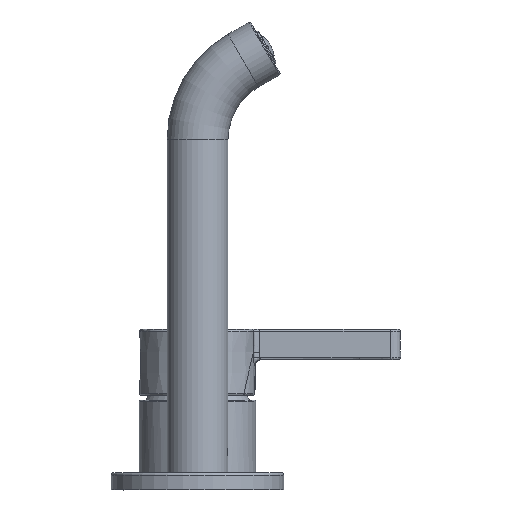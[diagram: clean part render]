
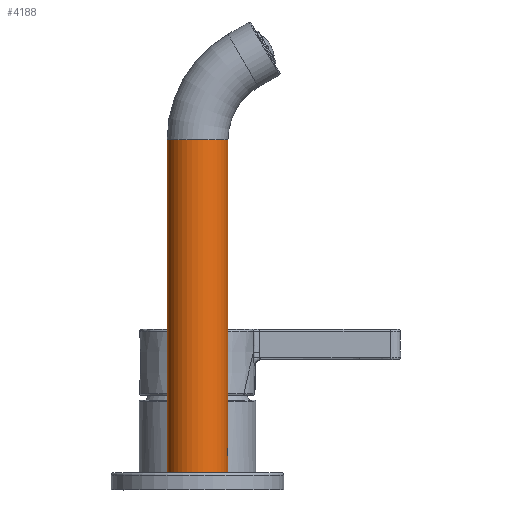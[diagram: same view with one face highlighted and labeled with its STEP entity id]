
A CAD part, left-side view. The second image highlights one B-rep face of the part: STEP entity #4188.
In plain terms, the highlighted cylindrical face has radius 12 mm (diameter 24 mm), a partial arc.
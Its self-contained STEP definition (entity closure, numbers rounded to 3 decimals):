
#97=DIRECTION('',(0.,0.,1.));
#98=VECTOR('',#97,6.1);
#99=CARTESIAN_POINT('',(0.,-12.,3.5));
#100=LINE('',#99,#98);
#124=CARTESIAN_POINT('',(0.,-12.,9.6));
#151=DIRECTION('',(0.,0.,1.));
#152=VECTOR('',#151,121.023);
#153=CARTESIAN_POINT('',(0.,-12.,13.8));
#154=LINE('',#153,#152);
#170=CARTESIAN_POINT('',(0.,0.,3.5));
#171=DIRECTION('',(0.,0.,1.));
#172=DIRECTION('',(0.,1.,0.));
#173=AXIS2_PLACEMENT_3D('',#170,#171,#172);
#213=DIRECTION('',(0.,0.,1.));
#214=VECTOR('',#213,131.323);
#215=CARTESIAN_POINT('',(0.,12.,3.5));
#216=LINE('',#215,#214);
#217=CARTESIAN_POINT('',(-2.007,-11.831,12.317));
#218=CARTESIAN_POINT('',(-1.995,-11.833,12.358));
#219=CARTESIAN_POINT('',(-1.967,-11.838,12.438));
#220=CARTESIAN_POINT('',(-1.919,-11.846,12.556));
#221=CARTESIAN_POINT('',(-1.864,-11.854,12.67));
#222=CARTESIAN_POINT('',(-1.802,-11.864,12.781));
#223=CARTESIAN_POINT('',(-1.733,-11.874,12.889));
#224=CARTESIAN_POINT('',(-1.657,-11.885,12.992));
#225=CARTESIAN_POINT('',(-1.575,-11.896,13.09));
#226=CARTESIAN_POINT('',(-1.488,-11.908,13.184));
#227=CARTESIAN_POINT('',(-1.395,-11.919,13.272));
#228=CARTESIAN_POINT('',(-1.297,-11.93,13.354));
#229=CARTESIAN_POINT('',(-1.194,-11.941,13.429));
#230=CARTESIAN_POINT('',(-1.086,-11.951,13.499));
#231=CARTESIAN_POINT('',(-0.975,-11.96,
13.561));
#232=CARTESIAN_POINT('',(-0.861,-11.969,
13.617));
#233=CARTESIAN_POINT('',(-0.743,-11.977,
13.665));
#234=CARTESIAN_POINT('',(-0.623,-11.984,
13.707));
#235=CARTESIAN_POINT('',(-0.501,-11.99,
13.741));
#236=CARTESIAN_POINT('',(-0.377,-11.994,
13.767));
#237=CARTESIAN_POINT('',(-0.252,-11.998,
13.786));
#238=CARTESIAN_POINT('',(-0.126,-12.,
13.797));
#239=CARTESIAN_POINT('',(-0.042,-12.,13.8));
#240=CARTESIAN_POINT('',(0.,-12.,13.8));
#242=CARTESIAN_POINT('',(0.,-12.,9.6));
#243=CARTESIAN_POINT('',(-0.042,-12.,9.6));
#244=CARTESIAN_POINT('',(-0.126,-12.,
9.603));
#245=CARTESIAN_POINT('',(-0.252,-11.998,
9.614));
#246=CARTESIAN_POINT('',(-0.377,-11.994,
9.633));
#247=CARTESIAN_POINT('',(-0.501,-11.99,
9.659));
#248=CARTESIAN_POINT('',(-0.623,-11.984,
9.693));
#249=CARTESIAN_POINT('',(-0.743,-11.977,
9.735));
#250=CARTESIAN_POINT('',(-0.861,-11.969,
9.783));
#251=CARTESIAN_POINT('',(-0.975,-11.96,
9.839));
#252=CARTESIAN_POINT('',(-1.086,-11.951,9.901));
#253=CARTESIAN_POINT('',(-1.194,-11.941,9.971));
#254=CARTESIAN_POINT('',(-1.297,-11.93,10.046));
#255=CARTESIAN_POINT('',(-1.395,-11.919,10.128));
#256=CARTESIAN_POINT('',(-1.488,-11.908,10.216));
#257=CARTESIAN_POINT('',(-1.575,-11.896,10.31));
#258=CARTESIAN_POINT('',(-1.657,-11.885,10.408));
#259=CARTESIAN_POINT('',(-1.733,-11.874,10.511));
#260=CARTESIAN_POINT('',(-1.802,-11.864,10.619));
#261=CARTESIAN_POINT('',(-1.864,-11.854,10.73));
#262=CARTESIAN_POINT('',(-1.919,-11.846,10.844));
#263=CARTESIAN_POINT('',(-1.967,-11.838,10.962));
#264=CARTESIAN_POINT('',(-1.995,-11.833,11.042));
#265=CARTESIAN_POINT('',(-2.007,-11.831,11.083));
#267=CARTESIAN_POINT('',(0.,0.,134.823));
#268=DIRECTION('',(0.,0.,1.));
#269=DIRECTION('',(0.,1.,0.));
#270=AXIS2_PLACEMENT_3D('',#267,#268,#269);
#301=CARTESIAN_POINT('',(-2.141,-11.808,11.7));
#302=CARTESIAN_POINT('',(-2.141,-11.808,11.729));
#303=CARTESIAN_POINT('',(-2.139,-11.808,11.788));
#304=CARTESIAN_POINT('',(-2.131,-11.809,11.877));
#305=CARTESIAN_POINT('',(-2.117,-11.812,11.965));
#306=CARTESIAN_POINT('',(-2.099,-11.815,12.053));
#307=CARTESIAN_POINT('',(-2.074,-11.819,12.142));
#308=CARTESIAN_POINT('',(-2.044,-11.825,12.23));
#309=CARTESIAN_POINT('',(-2.02,-11.829,12.288));
#310=CARTESIAN_POINT('',(-2.007,-11.831,12.317));
#323=CARTESIAN_POINT('',(-2.007,-11.831,11.083));
#324=CARTESIAN_POINT('',(-2.02,-11.829,11.112));
#325=CARTESIAN_POINT('',(-2.044,-11.825,11.17));
#326=CARTESIAN_POINT('',(-2.074,-11.819,11.258));
#327=CARTESIAN_POINT('',(-2.099,-11.815,11.347));
#328=CARTESIAN_POINT('',(-2.117,-11.812,11.435));
#329=CARTESIAN_POINT('',(-2.131,-11.809,11.523));
#330=CARTESIAN_POINT('',(-2.139,-11.808,11.612));
#331=CARTESIAN_POINT('',(-2.141,-11.808,11.671));
#332=CARTESIAN_POINT('',(-2.141,-11.808,11.7));
#3267=CARTESIAN_POINT('',(0.,-12.,134.823));
#3268=CARTESIAN_POINT('',(0.,12.,134.823));
#3269=VERTEX_POINT('',#3267);
#3270=VERTEX_POINT('',#3268);
#3275=CARTESIAN_POINT('',(0.,-12.,13.8));
#3276=VERTEX_POINT('',#3275);
#3285=CARTESIAN_POINT('',(0.,-12.,3.5));
#3286=CARTESIAN_POINT('',(0.,12.,3.5));
#3287=VERTEX_POINT('',#3285);
#3288=VERTEX_POINT('',#3286);
#3291=VERTEX_POINT('',#323);
#3292=VERTEX_POINT('',#332);
#3294=VERTEX_POINT('',#310);
#3295=VERTEX_POINT('',#124);
#4167=CARTESIAN_POINT('',(0.,0.,0.));
#4168=DIRECTION('',(0.,0.,1.));
#4169=DIRECTION('',(0.,-1.,0.));
#4170=AXIS2_PLACEMENT_3D('',#4167,#4168,#4169);
#4171=CYLINDRICAL_SURFACE('',#4170,12.);
#4172=ORIENTED_EDGE('',*,*,#4096,.F.);
#4173=ORIENTED_EDGE('',*,*,#4079,.T.);
#4175=ORIENTED_EDGE('',*,*,#4174,.T.);
#4176=ORIENTED_EDGE('',*,*,#4076,.F.);
#4178=ORIENTED_EDGE('',*,*,#4177,.F.);
#4180=ORIENTED_EDGE('',*,*,#4179,.F.);
#4182=ORIENTED_EDGE('',*,*,#4181,.F.);
#4184=ORIENTED_EDGE('',*,*,#4183,.F.);
#4185=ORIENTED_EDGE('',*,*,#4066,.F.);
#4186=EDGE_LOOP('',(#4172,#4173,#4175,#4176,#4178,#4180,#4182,#4184,#4185));
#4187=FACE_OUTER_BOUND('',#4186,.F.);
#4188=ADVANCED_FACE('',(#4187),#4171,.T.);
#174=CIRCLE('',#173,12.);
#241=B_SPLINE_CURVE_WITH_KNOTS('',3,(#217,#218,#219,#220,#221,#222,#223,#224,
#225,#226,#227,#228,#229,#230,#231,#232,#233,#234,#235,#236,#237,#238,#239,
#240),.UNSPECIFIED.,.F.,.F.,(4,1,1,1,1,1,1,1,1,1,1,1,1,1,1,1,1,1,1,1,1,4),(0.,
0.048,0.095,0.143,0.19,
0.238,0.286,0.333,0.381,
0.429,0.476,0.524,0.571,
0.619,0.667,0.714,0.762,
0.81,0.857,0.905,0.952,1.),
.UNSPECIFIED.);
#266=B_SPLINE_CURVE_WITH_KNOTS('',3,(#242,#243,#244,#245,#246,#247,#248,#249,
#250,#251,#252,#253,#254,#255,#256,#257,#258,#259,#260,#261,#262,#263,#264,
#265),.UNSPECIFIED.,.F.,.F.,(4,1,1,1,1,1,1,1,1,1,1,1,1,1,1,1,1,1,1,1,1,4),(0.,
0.048,0.095,0.143,0.19,
0.238,0.286,0.333,0.381,
0.429,0.476,0.524,0.571,
0.619,0.667,0.714,0.762,
0.81,0.857,0.905,0.952,1.),
.UNSPECIFIED.);
#271=CIRCLE('',#270,12.);
#311=B_SPLINE_CURVE_WITH_KNOTS('',3,(#301,#302,#303,#304,#305,#306,#307,#308,
#309,#310),.UNSPECIFIED.,.F.,.F.,(4,1,1,1,1,1,1,4),(0.,0.143,
0.286,0.429,0.571,0.714,
0.857,1.),.UNSPECIFIED.);
#333=B_SPLINE_CURVE_WITH_KNOTS('',3,(#323,#324,#325,#326,#327,#328,#329,#330,
#331,#332),.UNSPECIFIED.,.F.,.F.,(4,1,1,1,1,1,1,4),(0.,0.143,
0.286,0.429,0.571,0.714,
0.857,1.),.UNSPECIFIED.);
#4066=EDGE_CURVE('',#3287,#3295,#100,.T.);
#4076=EDGE_CURVE('',#3276,#3269,#154,.T.);
#4079=EDGE_CURVE('',#3288,#3270,#216,.T.);
#4096=EDGE_CURVE('',#3288,#3287,#174,.T.);
#4174=EDGE_CURVE('',#3270,#3269,#271,.T.);
#4177=EDGE_CURVE('',#3294,#3276,#241,.T.);
#4179=EDGE_CURVE('',#3292,#3294,#311,.T.);
#4181=EDGE_CURVE('',#3291,#3292,#333,.T.);
#4183=EDGE_CURVE('',#3295,#3291,#266,.T.);
